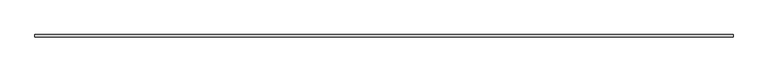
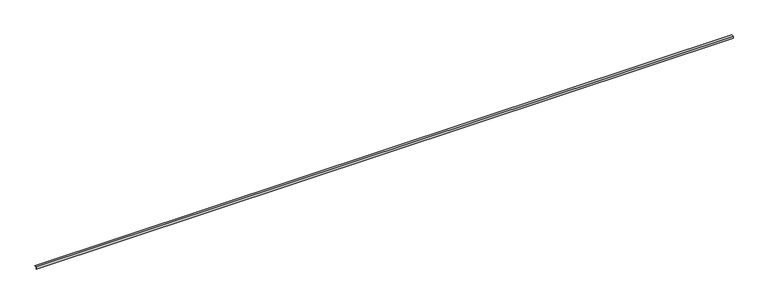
"""IFC4 building model written with IfcOpenShell, lengths in millimetres: beam geometry,  123416 :  123416."""

from ifc_helpers import new_model, si_unit, frame, origin, place, context, project, spatial, polyline, outline, extrude, source, transform, mapped, element, save


def beam_bcc38eae(model_context):
    return source(origin(), model_context, "Body", "SweptSolid", [
        extrude(outline(polyline([(-14111.5, 8110.0), (-14061.5, 8110.0), (-14061.5, 8106.0), (-14100.5, 8106.0), (-14107.5, 8099.0), (-14107.5, 8060.0), (-14111.5, 8060.0), (-14111.5, 8110.0)])), frame((-180.0000001, 0.0, 0.0), z_axis=(1.0, 0.0, 0.0), x_axis=(0.0, 1.0, 0.0)), (0.0, 0.0, 1.0), 15570.0),
    ])


if __name__ == "__main__":
    model = new_model("IFC4")
    model_context = context("Model", 3, world=origin())
    ifc_project = project(units=[si_unit("LENGTHUNIT", "METRE", prefix="MILLI")], contexts=[model_context])
    site = spatial("IfcSite", under=ifc_project)
    building = spatial("IfcBuilding", under=site)
    placement = place(None, origin())
    beam_shape = beam_bcc38eae(model_context)
    element("IfcBeam", 1, ObjectType=" 123416 :  123416", at=placement, inside=building, context=model_context, shape_type="MappedRepresentation", body=[
        mapped(beam_shape, transform((0.0, 0.0, 0.0), x_axis=(1.0, 0.0, 0.0), y_axis=(0.0, 1.0, 0.0), z_axis=(0.0, 0.0, 1.0))),
    ])
    save(model, "model.ifc")
